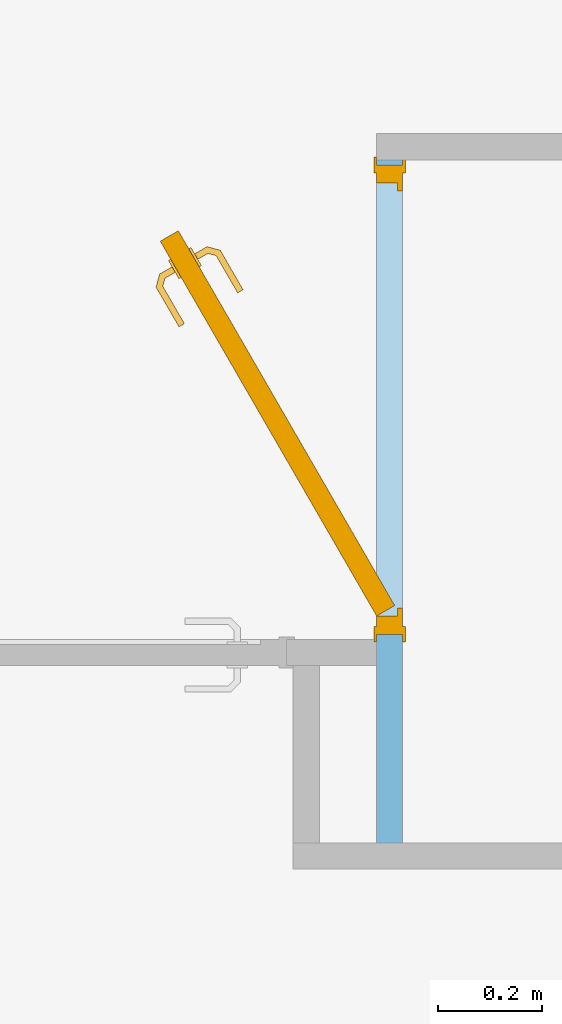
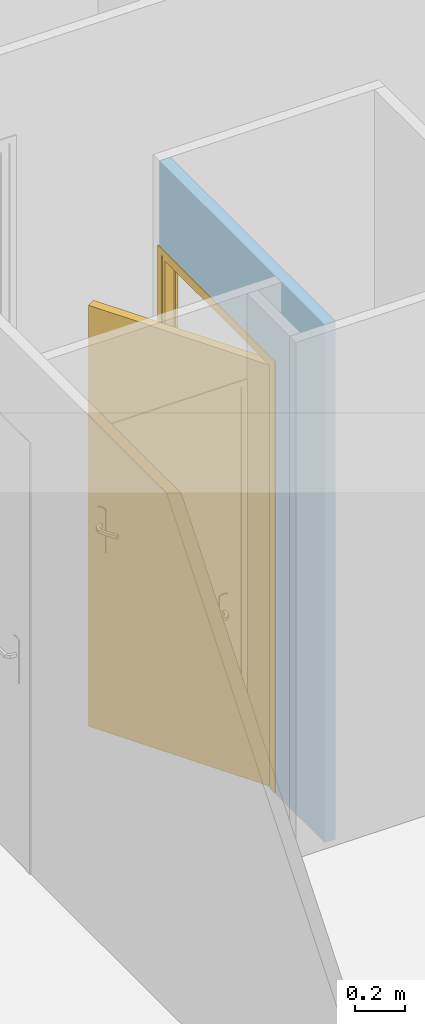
# One storey, part 12 of 13: 1 door, 1 opening, plus 1 element that does not belong to this part.
"""IFC2X3 building model written with IfcOpenShell, lengths in metres."""

from ifc_helpers import new_model, entity, si_unit, converted_unit, derived_unit, direction, frame, frame_2d, origin, place, context, subcontext, project, spatial, rectangle, extrude, faceted_brep, source, transform, mapped, material, material_list, layer, layer_set, layer_usage, type_object, type_shapes, element, fill, save


model = new_model("IFC2X3")

# Units and contexts
model_context = context("Model", 3, precision=1e-05, world=origin(), true_north=direction((6.12303176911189e-17, 1.0)))
context_of_model = context(None, 3, precision=1e-05, world=origin(), true_north=direction((6.12303176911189e-17, 1.0)))
body_context = subcontext(model_context, "Body", "Model", "MODEL_VIEW")
ifc_project = project(units=[si_unit("LENGTHUNIT", "METRE"), si_unit("AREAUNIT", "SQUARE_METRE"), si_unit("VOLUMEUNIT", "CUBIC_METRE"), converted_unit("PLANEANGLEUNIT", "DEGREE", entity("IfcRatioMeasure", 0.0174532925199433), si_unit("PLANEANGLEUNIT", "RADIAN"), dimensions=[0, 0, 0, 0, 0, 0, 0]), si_unit("MASSUNIT", "GRAM", prefix="KILO"), si_unit("TIMEUNIT", "SECOND"), si_unit("FREQUENCYUNIT", "HERTZ"), si_unit("THERMODYNAMICTEMPERATUREUNIT", "DEGREE_CELSIUS"), derived_unit("THERMALTRANSMITTANCEUNIT", [(si_unit("MASSUNIT", "GRAM", prefix="KILO"), 1), (si_unit("THERMODYNAMICTEMPERATUREUNIT", "KELVIN"), -1), (si_unit("TIMEUNIT", "SECOND"), -3)]), derived_unit("VOLUMETRICFLOWRATEUNIT", [(si_unit("LENGTHUNIT", "METRE"), 3), (si_unit("TIMEUNIT", "SECOND"), -1)]), si_unit("ELECTRICCURRENTUNIT", "AMPERE"), si_unit("ELECTRICVOLTAGEUNIT", "VOLT"), si_unit("POWERUNIT", "WATT"), si_unit("FORCEUNIT", "NEWTON", prefix="KILO"), si_unit("ILLUMINANCEUNIT", "LUX"), si_unit("LUMINOUSFLUXUNIT", "LUMEN"), si_unit("LUMINOUSINTENSITYUNIT", "CANDELA"), derived_unit("USERDEFINED", [(si_unit("MASSUNIT", "GRAM", prefix="KILO"), -1), (si_unit("LENGTHUNIT", "METRE"), -2), (si_unit("TIMEUNIT", "SECOND"), 3), (si_unit("LUMINOUSFLUXUNIT", "LUMEN"), 1)]), derived_unit("LINEARVELOCITYUNIT", [(si_unit("LENGTHUNIT", "METRE"), 1), (si_unit("TIMEUNIT", "SECOND"), -1)]), si_unit("PRESSUREUNIT", "PASCAL"), derived_unit("USERDEFINED", [(si_unit("LENGTHUNIT", "METRE"), -2), (si_unit("MASSUNIT", "GRAM", prefix="KILO"), 1), (si_unit("TIMEUNIT", "SECOND"), -2)])], contexts=[model_context, context_of_model])

# Site, building, storey
site_placement = place(None, origin())
site = spatial("IfcSite", under=ifc_project, at=site_placement, Name="Surface", CompositionType="ELEMENT")
building_placement = place(site_placement, origin())
building = spatial("IfcBuilding", under=site, at=building_placement, CompositionType="ELEMENT")
storey_placement = place(building_placement, frame((0.0, 0.0, 2.74)))
storey = spatial("IfcBuildingStorey", under=building, at=storey_placement, Name="Plan étage", CompositionType="ELEMENT", Elevation=2.74)

# Wall, opening, door
ifc_material_1 = material(Name="Maçonnerie - Isolant(1)")
ifc_layer = layer(ifc_material_1, 0.05)
ifc_layer_set = layer_set([ifc_layer], Name="Mur de base:Int. plâtre 50 mm")
ifc_layer_usage = layer_usage(ifc_layer_set, "AXIS2", "NEGATIVE", 0.025)
wall_type = type_object("IfcWallType", Name="Mur de base:Int. plâtre 50 mm", PredefinedType="STANDARD", material=ifc_layer_set)
wall_placement = place(storey_placement, frame((-0.556088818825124, 0.0742557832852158, -0.00999999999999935), z_axis=(0.0, 0.0, 1.0), x_axis=(0.0, 1.0, 0.0)))
wall = element("IfcWallStandardCase", 1, at=wall_placement, inside=storey, type_object=wall_type, material=ifc_layer_usage, Name="Mur de base:Int. plâtre 50 mm", ObjectType="Mur de base:Int. plâtre 50 mm", context=body_context, shape_type="SweptSolid", body=[
    extrude(rectangle(XDim=1.31, YDim=0.05, at=frame_2d((0.655000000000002, 0.0), x_axis=(-1.0, 0.0))), origin(), (0.0, 0.0, 1.0), 2.51),
])
opening_placement = place(wall_placement, frame((0.400000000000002, -0.025, 0.00999999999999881)))
opening = element("IfcOpeningElement", 2, at=opening_placement, cuts=wall, Name="Int. Simple:PP (0.83m x 2.04m):1", ObjectType="Opening", context=body_context, shape_type="SweptSolid", body=[
    extrude(rectangle(XDim=2.075, YDim=0.9, at=frame_2d((1.0375, 0.45), x_axis=(1.0, 0.0))), frame((0.0, 0.0, 0.0), z_axis=(0.0, 1.0, 0.0), x_axis=(0.0, 0.0, 1.0)), (0.0, 0.0, 1.0), 0.05),
])
ifc_material_2 = material(Name="Finition Peinture - Blanc satiné")
ifc_material_3 = material(Name="Bois - Panneau de porte")
ifc_material_4 = material(Name="Bois - Cadre de porte")
ifc_material_list_1 = material_list([ifc_material_2, ifc_material_3, ifc_material_4])
ifc_material_list_2 = material_list([ifc_material_2, ifc_material_3, ifc_material_4])
door_style = type_object("IfcDoorStyle", Name="PP (0.83m x 2.04m)", ConstructionType="NOTDEFINED", OperationType="SINGLE_SWING_LEFT", ParameterTakesPrecedence=False, Sizeable=False, material=ifc_material_list_2)
shared_shape = source(origin(), body_context, "Body", "Brep", [
    faceted_brep([(0.209626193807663, -0.384153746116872, 0.866003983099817), (0.217980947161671, -0.379330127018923, 0.870000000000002), (0.21798094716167, -0.379330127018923, 1.08), (0.209626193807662, -0.384153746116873, 1.08399601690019), (0.200660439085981, -0.389330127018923, 1.08535898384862), (0.191694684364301, -0.394506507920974, 1.08399601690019), (0.183339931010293, -0.399330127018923, 1.08), (0.183339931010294, -0.399330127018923, 0.870000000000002), (0.191694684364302, -0.394506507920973, 0.866003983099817), (0.200660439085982, -0.389330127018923, 0.86464101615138), (0.207126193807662, -0.379823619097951, 1.08399601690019), (0.21548094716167, -0.375000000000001, 1.08), (0.215480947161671, -0.375000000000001, 0.870000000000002), (0.207126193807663, -0.37982361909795, 0.866003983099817), (0.198160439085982, -0.385, 0.86464101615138), (0.189194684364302, -0.390176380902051, 0.866003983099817), (0.180839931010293, -0.395000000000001, 0.870000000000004), (0.180839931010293, -0.395000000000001, 1.08), (0.189194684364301, -0.390176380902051, 1.08399601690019), (0.198160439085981, -0.385000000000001, 1.08535898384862)], [[[0, 1, 2, 3, 4, 5, 6, 7, 8, 9]], [[10, 11, 12, 13, 14, 15, 16, 17, 18, 19]], [[16, 15, 8, 7]], [[8, 15, 14, 9]], [[14, 13, 0, 9]], [[13, 12, 1, 0]], [[2, 1, 12, 11]], [[11, 10, 3, 2]], [[3, 10, 19, 4]], [[19, 18, 5, 4]], [[18, 17, 6, 5]], [[7, 6, 17, 16]]]),
    faceted_brep([(0.187126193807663, -0.345182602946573, 0.866003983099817), (0.195480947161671, -0.340358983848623, 0.870000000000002), (0.19548094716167, -0.340358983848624, 1.08), (0.187126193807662, -0.345182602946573, 1.08399601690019), (0.178160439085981, -0.350358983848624, 1.08535898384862), (0.169194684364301, -0.355535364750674, 1.08399601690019), (0.160839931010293, -0.360358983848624, 1.08), (0.160839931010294, -0.360358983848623, 0.870000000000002), (0.169194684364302, -0.355535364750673, 0.866003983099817), (0.178160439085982, -0.350358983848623, 0.86464101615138), (0.184626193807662, -0.340852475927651, 1.08399601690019), (0.19298094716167, -0.336028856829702, 1.08), (0.192980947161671, -0.336028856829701, 0.870000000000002), (0.184626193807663, -0.34085247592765, 0.866003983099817), (0.175660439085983, -0.346028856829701, 0.86464101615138), (0.166694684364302, -0.351205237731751, 0.866003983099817), (0.158339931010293, -0.356028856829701, 0.870000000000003), (0.158339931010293, -0.356028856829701, 1.08), (0.166694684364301, -0.351205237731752, 1.08399601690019), (0.175660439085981, -0.346028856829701, 1.08535898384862)], [[[0, 1, 2, 3, 4, 5, 6, 7, 8, 9]], [[10, 11, 12, 13, 14, 15, 16, 17, 18, 19]], [[11, 10, 3, 2]], [[3, 10, 19, 4]], [[19, 18, 5, 4]], [[18, 17, 6, 5]], [[7, 6, 17, 16]], [[16, 15, 8, 7]], [[8, 15, 14, 9]], [[14, 13, 0, 9]], [[13, 12, 1, 0]], [[2, 1, 12, 11]]]),
    faceted_brep([(0.198906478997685, -0.390342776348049, 1.00778044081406), (0.202414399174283, -0.388317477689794, 1.00778044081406), (0.205856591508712, -0.386330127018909, 1.00699999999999), (0.205856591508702, -0.386330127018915, 0.993000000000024), (0.202414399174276, -0.388317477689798, 0.992219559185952), (0.198906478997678, -0.390342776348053, 0.99221955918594), (0.195464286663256, -0.392330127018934, 0.992999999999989), (0.195464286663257, -0.392330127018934, 1.007), (0.20928976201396, -0.416276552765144, 1.007), (0.211908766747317, -0.412863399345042, 1.00778044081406), (0.233831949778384, -0.418737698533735, 1.00778044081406), (0.233259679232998, -0.414390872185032, 1.00778044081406), (0.21457778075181, -0.409385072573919, 1.00778044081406), (0.217196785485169, -0.405971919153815, 1.007), (0.21719678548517, -0.40597191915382, 0.993000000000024), (0.214577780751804, -0.409385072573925, 0.992219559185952), (0.233259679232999, -0.414390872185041, 0.992219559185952), (0.233831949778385, -0.418737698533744, 0.99221955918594), (0.211908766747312, -0.412863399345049, 0.99221955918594), (0.209289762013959, -0.416276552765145, 0.992999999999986), (0.234393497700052, -0.423003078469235, 1.007), (0.232698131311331, -0.410125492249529, 1.007), (0.232698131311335, -0.410125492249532, 0.993000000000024), (0.234393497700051, -0.423003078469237, 0.992999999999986), (0.310293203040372, -0.379182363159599, 0.992999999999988), (0.308305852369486, -0.375740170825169, 0.99221955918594), (0.306280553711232, -0.372232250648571, 0.992219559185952), (0.304293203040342, -0.368790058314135, 0.993000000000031), (0.304293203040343, -0.368790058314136, 1.007), (0.306280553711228, -0.372232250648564, 1.00778044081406), (0.308305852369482, -0.375740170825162, 1.00778044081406), (0.310293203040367, -0.379182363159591, 1.00699999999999), (0.268974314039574, -0.403037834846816, 1.007), (0.270782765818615, -0.395065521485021, 1.0078786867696), (0.268495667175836, -0.389457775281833, 1.007), (0.26849566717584, -0.389457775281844, 0.993000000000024), (0.270782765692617, -0.395065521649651, 0.992121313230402), (0.268974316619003, -0.403037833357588, 0.992999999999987)], [[[0, 1, 2, 3, 4, 5, 6, 7]], [[8, 9, 0, 7]], [[9, 10, 11, 12, 1, 0]], [[12, 13, 2, 1]], [[3, 2, 13, 14]], [[14, 15, 4, 3]], [[15, 16, 17, 18, 5, 4]], [[18, 19, 6, 5]], [[7, 6, 19, 8]], [[20, 10, 9, 8]], [[11, 21, 13, 12]], [[14, 13, 21, 22]], [[22, 16, 15, 14]], [[17, 23, 19, 18]], [[8, 19, 23, 20]], [[24, 25, 26, 27, 28, 29, 30, 31]], [[32, 30, 33]], [[31, 30, 32]], [[10, 20, 32]], [[33, 34, 11]], [[21, 11, 34]], [[34, 29, 28]], [[30, 29, 33]], [[29, 34, 33]], [[10, 32, 33]], [[10, 33, 11]], [[22, 21, 34, 28, 27, 35]], [[35, 26, 36]], [[37, 36, 25]], [[22, 35, 16]], [[35, 27, 26]], [[24, 37, 25]], [[23, 17, 37]], [[37, 17, 36]], [[17, 16, 36]], [[16, 35, 36]], [[25, 36, 26]], [[20, 23, 37, 24, 31, 32]]]),
    faceted_brep([(0.173906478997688, -0.347041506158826, 1.00778044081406), (0.170464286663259, -0.349028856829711, 1.007), (0.17046428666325, -0.349028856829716, 0.992999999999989), (0.17390647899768, -0.34704150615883, 0.99221955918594), (0.177414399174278, -0.345016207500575, 0.992219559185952), (0.180856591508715, -0.343028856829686, 0.993000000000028), (0.180856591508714, -0.343028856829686, 1.007), (0.177414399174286, -0.345016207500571, 1.00778044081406), (0.169613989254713, -0.323556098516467, 0.993000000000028), (0.169613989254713, -0.323556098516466, 1.007), (0.165348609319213, -0.324117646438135, 1.00778044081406), (0.170404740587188, -0.305247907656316, 1.00778044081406), (0.166926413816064, -0.302578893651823, 1.00778044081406), (0.161001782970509, -0.32468991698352, 1.00778044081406), (0.156736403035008, -0.325251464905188, 1.007), (0.156736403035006, -0.325251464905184, 0.992999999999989), (0.1610017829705, -0.324689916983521, 0.99221955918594), (0.166926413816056, -0.302578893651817, 0.99221955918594), (0.17040474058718, -0.30524790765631, 0.992219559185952), (0.165348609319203, -0.324117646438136, 0.992219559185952), (0.17381789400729, -0.307866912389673, 0.993000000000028), (0.17381789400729, -0.307866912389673, 1.007), (0.163513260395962, -0.299959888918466, 1.007), (0.163513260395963, -0.299959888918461, 0.992999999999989), (0.245317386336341, -0.266586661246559, 0.993000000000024), (0.243330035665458, -0.263144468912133, 0.992219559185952), (0.241304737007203, -0.259636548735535, 0.99221955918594), (0.239317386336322, -0.256194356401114, 0.992999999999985), (0.239317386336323, -0.256194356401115, 1.007), (0.241304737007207, -0.259636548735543, 1.00778044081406), (0.243330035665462, -0.263144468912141, 1.00778044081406), (0.245317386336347, -0.26658666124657, 1.007), (0.209567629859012, -0.287226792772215, 0.993000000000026), (0.209567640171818, -0.287226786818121, 1.007), (0.205854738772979, -0.282442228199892, 1.0078786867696), (0.198094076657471, -0.279994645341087, 1.007), (0.198094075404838, -0.279994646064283, 0.992999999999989), (0.205854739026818, -0.282442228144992, 0.992121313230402)], [[[0, 1, 2, 3, 4, 5, 6, 7]], [[6, 5, 8, 9]], [[9, 10, 7, 6]], [[10, 11, 12, 13, 0, 7]], [[13, 14, 1, 0]], [[2, 1, 14, 15]], [[15, 16, 3, 2]], [[16, 17, 18, 19, 4, 3]], [[19, 8, 5, 4]], [[9, 8, 20, 21]], [[21, 11, 10, 9]], [[12, 22, 14, 13]], [[15, 14, 22, 23]], [[23, 17, 16, 15]], [[18, 20, 8, 19]], [[24, 25, 26, 27, 28, 29, 30, 31]], [[21, 20, 32, 24, 31, 33]], [[33, 30, 34]], [[35, 34, 29]], [[21, 33, 11]], [[33, 31, 30]], [[28, 35, 29]], [[22, 12, 35]], [[35, 12, 34]], [[12, 11, 34]], [[11, 33, 34]], [[29, 34, 30]], [[22, 35, 28, 27, 36, 23]], [[36, 26, 37]], [[27, 26, 36]], [[17, 23, 36]], [[37, 32, 18]], [[20, 18, 32]], [[32, 25, 24]], [[26, 25, 37]], [[25, 32, 37]], [[17, 36, 37]], [[17, 37, 18]]]),
    faceted_brep([(0.126198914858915, -0.380358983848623, 2.04), (0.845, 0.0346410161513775, 2.04), (0.844999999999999, 0.0346410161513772, 0.0), (0.126198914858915, -0.380358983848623, 0.0), (0.146198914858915, -0.415, 2.04), (0.146198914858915, -0.415, 0.0), (0.864999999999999, 0.0, 0.0), (0.865, 0.0, 2.04)], [[[0, 1, 2, 3]], [[4, 5, 6, 7]], [[1, 0, 4, 7]], [[2, 1, 7, 6]], [[3, 2, 6, 5]], [[0, 3, 5, 4]]]),
    faceted_brep([(0.0, 0.0, 0.0), (0.0, 0.050000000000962, 0.0), (0.0499999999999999, 0.050000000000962, 0.0), (0.0499999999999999, 0.040000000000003, 0.0), (0.0349999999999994, 0.040000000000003, 0.0), (0.0349999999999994, 0.0, 0.0), (0.0, 0.0, 2.07500000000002), (0.0, 0.050000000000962, 2.07500000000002), (0.900000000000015, 0.050000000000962, 2.07500000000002), (0.900000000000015, 0.050000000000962, 0.0), (0.85, 0.050000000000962, 0.0), (0.85, 0.050000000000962, 2.025), (0.0500000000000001, 0.050000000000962, 2.025), (0.05, 0.040000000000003, 2.025), (0.85, 0.040000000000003, 2.025), (0.85, 0.040000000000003, 0.0), (0.865, 0.040000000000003, 0.0), (0.865, 0.040000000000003, 2.04), (0.0349999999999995, 0.040000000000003, 2.04), (0.0349999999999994, 0.0, 2.04), (0.865, 0.0, 2.04), (0.865, 0.0, 0.0), (0.900000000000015, 0.0, 0.0), (0.900000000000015, 0.0, 2.07500000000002)], [[[0, 1, 2, 3, 4, 5]], [[1, 0, 6, 7]], [[2, 1, 7, 8, 9, 10, 11, 12]], [[3, 2, 12, 13]], [[4, 3, 13, 14, 15, 16, 17, 18]], [[5, 4, 18, 19]], [[0, 5, 19, 20, 21, 22, 23, 6]], [[8, 23, 22, 9]], [[22, 21, 16, 15, 10, 9]], [[14, 11, 10, 15]], [[20, 17, 16, 21]], [[7, 6, 23, 8]], [[13, 12, 11, 14]], [[19, 18, 17, 20]]]),
    faceted_brep([(0.0149999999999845, 0.050000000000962, 0.0), (-0.0150000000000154, 0.050000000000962, 0.0), (-0.0150000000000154, 0.055000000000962, 0.0), (0.0149999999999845, 0.055000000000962, 0.0), (0.0149999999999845, 0.050000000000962, 2.06000000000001), (0.884999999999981, 0.050000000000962, 2.06000000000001), (0.88499999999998, 0.050000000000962, 0.0), (0.91499999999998, 0.050000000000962, 0.0), (0.91499999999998, 0.050000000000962, 2.09000000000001), (-0.0150000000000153, 0.050000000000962, 2.09000000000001), (-0.0150000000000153, 0.055000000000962, 2.09000000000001), (0.91499999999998, 0.055000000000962, 2.09000000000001), (0.91499999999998, 0.055000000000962, 0.0), (0.88499999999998, 0.055000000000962, 0.0), (0.88499999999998, 0.055000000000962, 2.06000000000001), (0.0149999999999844, 0.055000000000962, 2.06000000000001)], [[[0, 1, 2, 3]], [[1, 0, 4, 5, 6, 7, 8, 9]], [[2, 1, 9, 10]], [[3, 2, 10, 11, 12, 13, 14, 15]], [[0, 3, 15, 4]], [[6, 13, 12, 7]], [[5, 14, 13, 6]], [[11, 8, 7, 12]], [[10, 9, 8, 11]], [[4, 15, 14, 5]]]),
    faceted_brep([(-0.0150000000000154, -0.005, 0.0), (0.0149999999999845, -0.005, 0.0), (0.0149999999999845, -0.005, 2.06000000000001), (0.884999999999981, -0.005, 2.06000000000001), (0.88499999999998, -0.005, 0.0), (0.91499999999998, -0.005, 0.0), (0.91499999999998, -0.005, 2.09000000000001), (-0.0150000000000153, -0.005, 2.09000000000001), (-0.0150000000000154, 0.0, 0.0), (-0.0150000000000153, 0.0, 2.09000000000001), (0.0149999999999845, 0.0, 0.0), (0.91499999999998, 0.0, 2.09000000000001), (0.91499999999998, 0.0, 0.0), (0.88499999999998, 0.0, 0.0), (0.88499999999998, 0.0, 2.06000000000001), (0.0149999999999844, 0.0, 2.06000000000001)], [[[0, 1, 2, 3, 4, 5, 6, 7]], [[8, 0, 7, 9]], [[10, 8, 9, 11, 12, 13, 14, 15]], [[1, 10, 15, 2]], [[3, 14, 13, 4]], [[11, 6, 5, 12]], [[9, 7, 6, 11]], [[2, 15, 14, 3]], [[4, 13, 12, 5]], [[1, 0, 8, 10]]]),
])
type_shapes(door_style, [shared_shape])
door_placement = place(opening_placement, frame((0.9, 0.0499999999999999, 0.0), z_axis=(0.0, 0.0, 1.0), x_axis=(-1.0, 0.0, 0.0)))
door = element("IfcDoor", 3, at=door_placement, inside=storey, type_object=door_style, material=ifc_material_list_1, Name="Int. Simple:PP (0.83m x 2.04m)", ObjectType="PP (0.83m x 2.04m)", OverallHeight=2.075, OverallWidth=0.9, context=body_context, shape_type="MappedRepresentation", body=[
    mapped(shared_shape, transform((0.0, 0.0, 0.0), scale=1.0)),
])
fill(opening, door)

save(model, "model.ifc")
